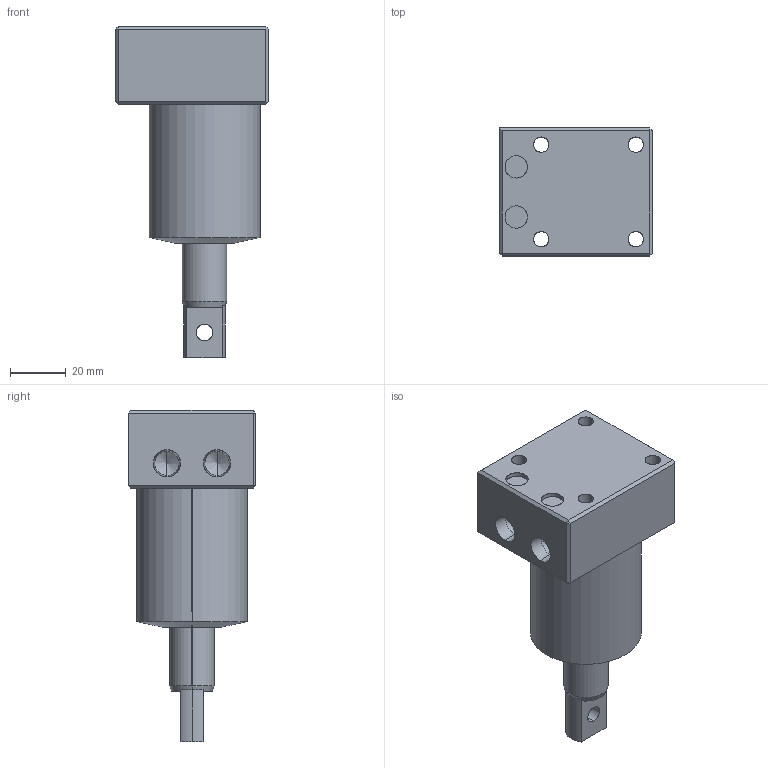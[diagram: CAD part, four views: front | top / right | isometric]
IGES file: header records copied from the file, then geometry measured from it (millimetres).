
Start section: SolidWorks IGES file using analytic representation for surfaces
Global section: file name: E:\ALL SSVT IGS MODEL\ALL-SWING-IGS\SWING-40\SWING-BM-PTYPE-LH-RH\SB03-402-LP-PTYPE.IGS; native system: SolidWorks 2019; preprocessor: SolidWorks 2019; author: SSVT; date: 210822.112634; units: millimetre
Bounding box: 55 x 46 x 119 mm (x, y, z)
Surface area: 26129.2 mm2 (no closed solid volume)
Topology: 0 solids, 0 shells, 70 faces, 1019 edges, 1015 vertices
Faces by surface type: revolution 39, bspline 31
